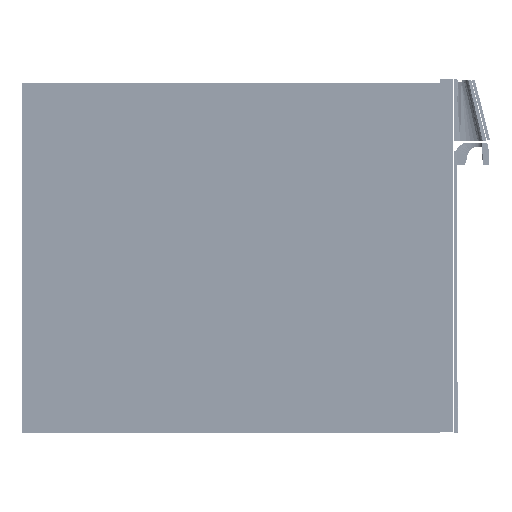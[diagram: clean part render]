
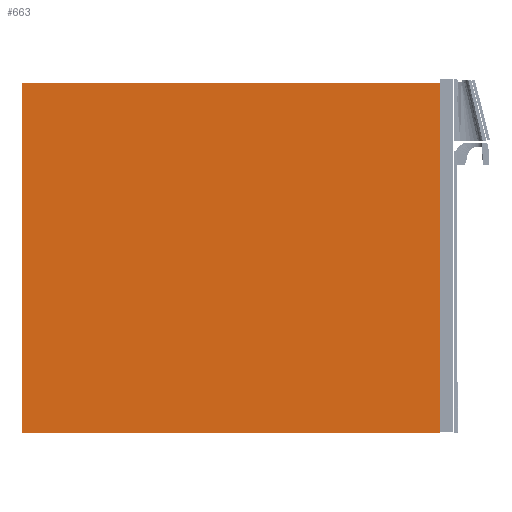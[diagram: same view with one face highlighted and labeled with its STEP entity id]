
A CAD part, front view. The second image highlights one B-rep face of the part: STEP entity #663.
In plain terms, the highlighted free-form (B-spline) face has degree [1, 1] with [2, 2] control points.
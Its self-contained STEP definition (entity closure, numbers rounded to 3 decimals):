
#663=ADVANCED_FACE('',(#852),#2368,.T.);
#852=FACE_OUTER_BOUND('',#1044,.T.);
#1044=EDGE_LOOP('',(#1561,#1562,#1563,#1564));
#1561=ORIENTED_EDGE('',*,*,#1973,.F.);
#1562=ORIENTED_EDGE('',*,*,#1974,.T.);
#1563=ORIENTED_EDGE('',*,*,#1975,.T.);
#1564=ORIENTED_EDGE('',*,*,#1976,.F.);
#1973=EDGE_CURVE('',#2213,#2214,#2604,.T.);
#1974=EDGE_CURVE('',#2213,#2215,#2605,.T.);
#1975=EDGE_CURVE('',#2215,#2216,#2606,.T.);
#1976=EDGE_CURVE('',#2214,#2216,#2607,.T.);
#2213=VERTEX_POINT('',#37527);
#2214=VERTEX_POINT('',#37528);
#2215=VERTEX_POINT('',#37529);
#2216=VERTEX_POINT('',#37530);
#2368=B_SPLINE_SURFACE_WITH_KNOTS('',1,1,((#37483,#37484),(#37485,#37486)),
.UNSPECIFIED.,.F.,.F.,.F.,(2,2),(2,2),(0.,1.),(0.,1.),.UNSPECIFIED.);
#2604=B_SPLINE_CURVE_WITH_KNOTS('',1,(#37439,#37440),.UNSPECIFIED.,.F.,.F.,
(2,2),(0.,1.),.UNSPECIFIED.);
#2605=B_SPLINE_CURVE_WITH_KNOTS('',1,(#37441,#37442),.UNSPECIFIED.,.F.,.F.,
(2,2),(0.,1.),.UNSPECIFIED.);
#2606=B_SPLINE_CURVE_WITH_KNOTS('',1,(#37443,#37444),.UNSPECIFIED.,.F.,.F.,
(2,2),(0.,1.),.UNSPECIFIED.);
#2607=B_SPLINE_CURVE_WITH_KNOTS('',1,(#37445,#37446),.UNSPECIFIED.,.F.,.F.,
(2,2),(0.,1.),.UNSPECIFIED.);
#37439=CARTESIAN_POINT('',(-0.025,-446.781,472.859));
#37440=CARTESIAN_POINT('',(-0.025,-446.781,0.007));
#37441=CARTESIAN_POINT('',(-0.025,-446.781,472.859));
#37442=CARTESIAN_POINT('',(-565.025,-446.781,472.859));
#37443=CARTESIAN_POINT('',(-565.025,-446.781,472.859));
#37444=CARTESIAN_POINT('',(-565.025,-446.781,0.007));
#37445=CARTESIAN_POINT('',(-0.025,-446.781,0.007));
#37446=CARTESIAN_POINT('',(-565.025,-446.781,0.007));
#37483=CARTESIAN_POINT('',(-0.025,-446.781,472.859));
#37484=CARTESIAN_POINT('',(-0.025,-446.781,0.007));
#37485=CARTESIAN_POINT('',(-565.025,-446.781,472.859));
#37486=CARTESIAN_POINT('',(-565.025,-446.781,0.007));
#37527=CARTESIAN_POINT('',(-0.025,-446.781,472.859));
#37528=CARTESIAN_POINT('',(-0.025,-446.781,0.007));
#37529=CARTESIAN_POINT('',(-565.025,-446.781,472.859));
#37530=CARTESIAN_POINT('',(-565.025,-446.781,0.007));
